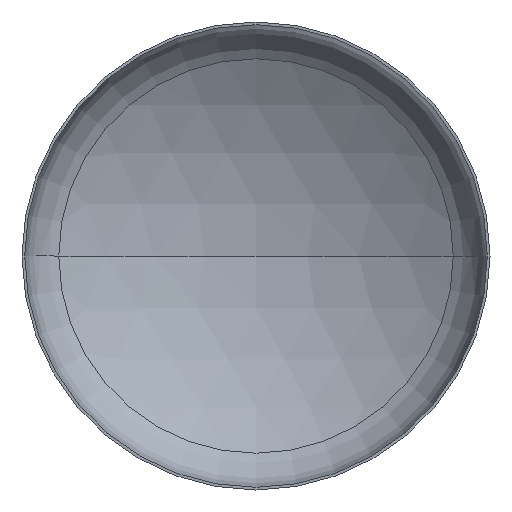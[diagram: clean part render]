
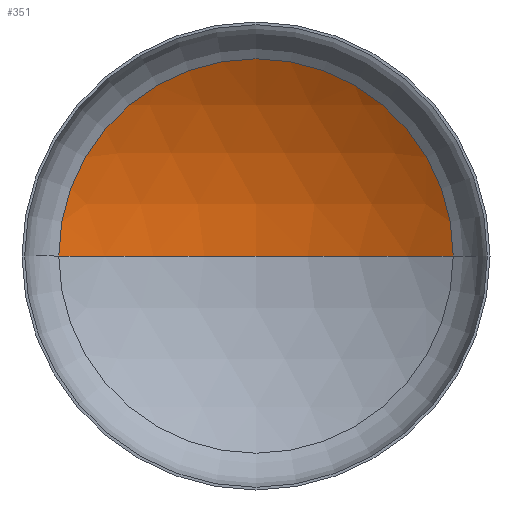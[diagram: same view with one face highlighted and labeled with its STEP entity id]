
A CAD part, front view. The second image highlights one B-rep face of the part: STEP entity #351.
In plain terms, the highlighted spherical face has radius 6000 mm.
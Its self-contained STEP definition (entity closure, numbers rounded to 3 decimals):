
#3 = AXIS2_PLACEMENT_3D ( 'NONE', #255, #7, #350 ) ;
#5 = DIRECTION ( 'NONE',  ( 0., 0., -1. ) ) ;
#7 = DIRECTION ( 'NONE',  ( 0., 0., -1. ) ) ;
#10 = CARTESIAN_POINT ( 'NONE',  ( 0., -3988.412, 0. ) ) ;
#37 = VERTEX_POINT ( 'NONE', #281 ) ;
#58 = AXIS2_PLACEMENT_3D ( 'NONE', #330, #352, #215 ) ;
#60 = ORIENTED_EDGE ( 'NONE', *, *, #140, .T. ) ;
#61 = AXIS2_PLACEMENT_3D ( 'NONE', #10, #5, #326 ) ;
#65 = AXIS2_PLACEMENT_3D ( 'NONE', #286, #282, #280 ) ;
#68 = ORIENTED_EDGE ( 'NONE', *, *, #144, .T. ) ;
#72 = VERTEX_POINT ( 'NONE', #242 ) ;
#76 = CIRCLE ( 'NONE', #65, 3160.372 ) ;
#127 = ORIENTED_EDGE ( 'NONE', *, *, #145, .F. ) ;
#140 = EDGE_CURVE ( 'NONE', #72, #37, #76, .T. ) ;
#141 = EDGE_LOOP ( 'NONE', ( #127, #68, #60 ) ) ;
#144 = EDGE_CURVE ( 'NONE', #223, #72, #193, .T. ) ;
#145 = EDGE_CURVE ( 'NONE', #223, #37, #254, .T. ) ;
#161 = FACE_OUTER_BOUND ( 'NONE', #141, .T. ) ;
#169 = CARTESIAN_POINT ( 'NONE',  ( 0., 2011.588, 0. ) ) ;
#193 = CIRCLE ( 'NONE', #61, 6000. ) ;
#215 = DIRECTION ( 'NONE',  ( 1., 0., 0. ) ) ;
#221 = SPHERICAL_SURFACE ( 'NONE', #3, 6000. ) ;
#223 = VERTEX_POINT ( 'NONE', #169 ) ;
#242 = CARTESIAN_POINT ( 'NONE',  ( 3160.372, 1111.789, 0. ) ) ;
#254 = CIRCLE ( 'NONE', #58, 6000. ) ;
#255 = CARTESIAN_POINT ( 'NONE',  ( 0., -3988.412, 0. ) ) ;
#280 = DIRECTION ( 'NONE',  ( 1., 0., 0. ) ) ;
#281 = CARTESIAN_POINT ( 'NONE',  ( -3160.372, 1111.789, 0. ) ) ;
#282 = DIRECTION ( 'NONE',  ( 0., -1., 0. ) ) ;
#286 = CARTESIAN_POINT ( 'NONE',  ( 0., 1111.789, 0. ) ) ;
#326 = DIRECTION ( 'NONE',  ( -1., 0., 0. ) ) ;
#330 = CARTESIAN_POINT ( 'NONE',  ( 0., -3988.412, 0. ) ) ;
#350 = DIRECTION ( 'NONE',  ( -1., 0., 0. ) ) ;
#351 = ADVANCED_FACE ( 'NONE', ( #161 ), #221, .F. ) ;
#352 = DIRECTION ( 'NONE',  ( 0., 0., 1. ) ) ;
